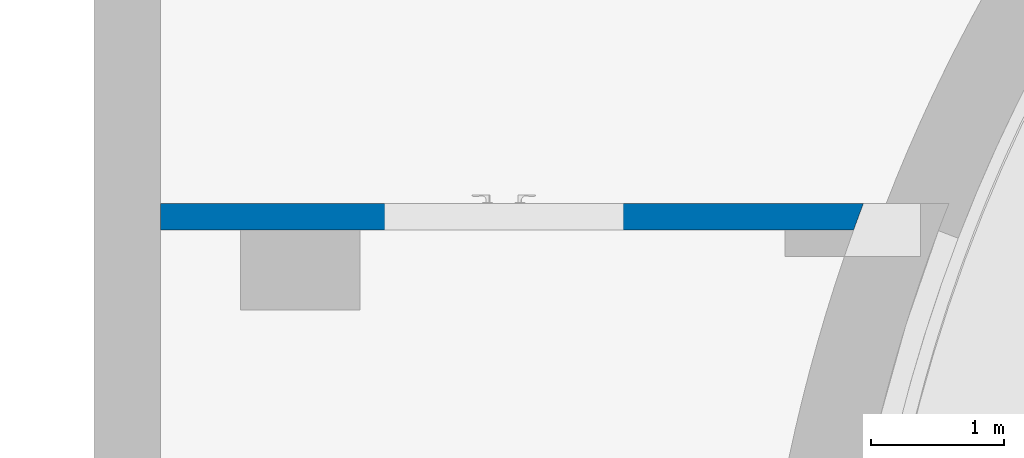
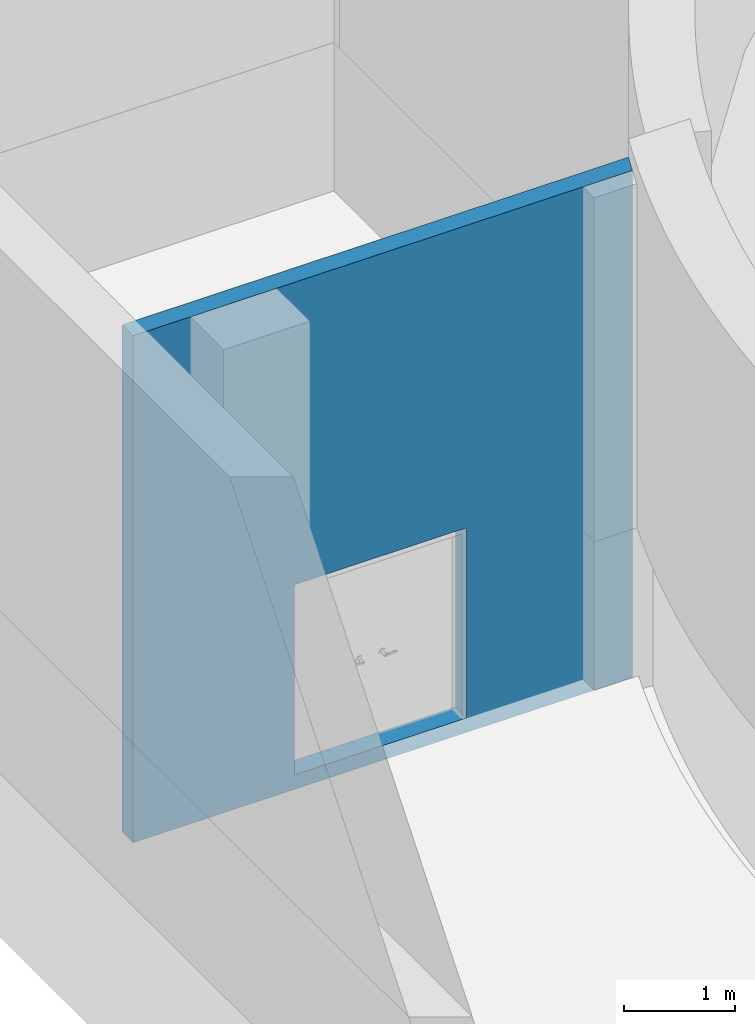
# One storey, part 8 of 30: 1 wall, 2 openings.
"""IFC2X3 building model written with IfcOpenShell, lengths in millimetres."""

from ifc_helpers import new_model, entity, si_unit, converted_unit, derived_unit, direction, frame, frame_2d, origin, place, context, subcontext, project, spatial, polyline, circle_curve, parameter, trimmed, segment, composite_curve, rectangle, outline, extrude, clip, bounded_halfspace, material, layer, layer_set, layer_usage, type_object, element, save


model = new_model("IFC2X3")

# Units and contexts
model_context = context("Model", 3, precision=0.01, world=origin(), true_north=direction((6.123031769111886e-17, 1.0)))
body_context = subcontext(model_context, "Body", "Model", "MODEL_VIEW")
ifc_project = project(units=[si_unit("LENGTHUNIT", "METRE", prefix="MILLI"), si_unit("AREAUNIT", "SQUARE_METRE"), si_unit("VOLUMEUNIT", "CUBIC_METRE"), converted_unit("PLANEANGLEUNIT", "DEGREE", entity("IfcRatioMeasure", 0.017453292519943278), si_unit("PLANEANGLEUNIT", "RADIAN"), dimensions=[0, 0, 0, 0, 0, 0, 0]), si_unit("MASSUNIT", "GRAM", prefix="KILO"), derived_unit("MASSDENSITYUNIT", [(si_unit("MASSUNIT", "GRAM", prefix="KILO"), 1), (si_unit("LENGTHUNIT", "METRE"), -3)]), derived_unit("MOMENTOFINERTIAUNIT", [(si_unit("LENGTHUNIT", "METRE"), 4)]), si_unit("TIMEUNIT", "SECOND"), si_unit("FREQUENCYUNIT", "HERTZ"), si_unit("THERMODYNAMICTEMPERATUREUNIT", "DEGREE_CELSIUS"), derived_unit("THERMALTRANSMITTANCEUNIT", [(si_unit("MASSUNIT", "GRAM", prefix="KILO"), 1), (si_unit("THERMODYNAMICTEMPERATUREUNIT", "KELVIN"), -1), (si_unit("TIMEUNIT", "SECOND"), -3)]), derived_unit("VOLUMETRICFLOWRATEUNIT", [(si_unit("LENGTHUNIT", "METRE"), 3), (si_unit("TIMEUNIT", "SECOND"), -1)]), derived_unit("MASSFLOWRATEUNIT", [(si_unit("MASSUNIT", "GRAM", prefix="KILO"), 1), (si_unit("TIMEUNIT", "SECOND"), -1)]), derived_unit("ROTATIONALFREQUENCYUNIT", [(si_unit("TIMEUNIT", "SECOND"), -1)]), si_unit("ELECTRICCURRENTUNIT", "AMPERE"), si_unit("ELECTRICVOLTAGEUNIT", "VOLT"), si_unit("POWERUNIT", "WATT"), si_unit("FORCEUNIT", "NEWTON", prefix="KILO"), si_unit("ILLUMINANCEUNIT", "LUX"), si_unit("LUMINOUSFLUXUNIT", "LUMEN"), si_unit("LUMINOUSINTENSITYUNIT", "CANDELA"), derived_unit("USERDEFINED", [(si_unit("MASSUNIT", "GRAM", prefix="KILO"), -1), (si_unit("LENGTHUNIT", "METRE"), -2), (si_unit("TIMEUNIT", "SECOND"), 3), (si_unit("LUMINOUSFLUXUNIT", "LUMEN"), 1)]), derived_unit("SOUNDPOWERUNIT", [(si_unit("MASSUNIT", "GRAM", prefix="KILO"), 1), (si_unit("LENGTHUNIT", "METRE"), 2), (si_unit("TIMEUNIT", "SECOND"), -3)]), derived_unit("SOUNDPRESSUREUNIT", [(si_unit("MASSUNIT", "GRAM", prefix="KILO"), 1), (si_unit("LENGTHUNIT", "METRE"), -1), (si_unit("TIMEUNIT", "SECOND"), -2)]), derived_unit("LINEARVELOCITYUNIT", [(si_unit("LENGTHUNIT", "METRE"), 1), (si_unit("TIMEUNIT", "SECOND"), -1)]), si_unit("PRESSUREUNIT", "PASCAL"), derived_unit("USERDEFINED", [(si_unit("LENGTHUNIT", "METRE"), -2), (si_unit("MASSUNIT", "GRAM", prefix="KILO"), 1), (si_unit("TIMEUNIT", "SECOND"), -2)]), derived_unit("LINEARFORCEUNIT", [(si_unit("MASSUNIT", "GRAM", prefix="KILO"), 1), (si_unit("LENGTHUNIT", "METRE"), 1), (si_unit("TIMEUNIT", "SECOND"), -2), (si_unit("LENGTHUNIT", "METRE"), -1)]), derived_unit("PLANARFORCEUNIT", [(si_unit("MASSUNIT", "GRAM", prefix="KILO"), 1), (si_unit("LENGTHUNIT", "METRE"), 1), (si_unit("TIMEUNIT", "SECOND"), -2), (si_unit("LENGTHUNIT", "METRE"), -2)])], contexts=[model_context])

# Site, building, storey
site_placement = place(None, frame((-14167.972527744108, -657.2125860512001, 0.0)))
site = spatial("IfcSite", under=ifc_project, at=site_placement, Name="Default", CompositionType="ELEMENT")
building_placement = place(site_placement, origin())
building = spatial("IfcBuilding", under=site, at=building_placement, Name="Sample Building", CompositionType="ELEMENT")
storey_placement = place(building_placement, frame((0.0, 0.0, -10100.0)))
storey = spatial("IfcBuildingStorey", under=building, at=storey_placement, Name="지하2층", CompositionType="ELEMENT", Elevation=-10100.0)

# Wall, openings
ifc_material = material(Name="KBIMS-콘크리트")
ifc_layer = layer(ifc_material, 200.0)
ifc_layer_set = layer_set([ifc_layer], Name="기본 벽:WA111-철근콘크리트구조 벽 200mm_W1")
ifc_layer_usage = layer_usage(ifc_layer_set, "AXIS2", "NEGATIVE", 100.0)
wall_type = type_object("IfcWallType", Name="기본 벽:WA111-철근콘크리트구조 벽 200mm_W1", PredefinedType="STANDARD", material=ifc_layer_set)
wall_placement = place(storey_placement, frame((18759.019761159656, 27657.21230798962, -1800.0), z_axis=(0.0, 0.0, 1.0), x_axis=(-1.0, 0.0, 0.0)))
wall = element("IfcWallStandardCase", 1, at=wall_placement, inside=storey, type_object=wall_type, material=ifc_layer_usage, Name="기본 벽:WA111-철근콘크리트구조 벽 200mm_W1", ObjectType="기본 벽:WA111-철근콘크리트구조 벽 200mm_W1", context=body_context, shape_type="Clipping", body=[
    clip(extrude(outline(composite_curve([segment(polyline([(5291.047270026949, -100.0), (5291.047270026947, 100.0)]), True, "CONTINUOUS"), segment(polyline([(5291.047270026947, 100.0), (4691.064674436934, 100.0)]), True, "CONTINUOUS"), segment(polyline([(4691.064674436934, 100.0), (3791.0646744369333, 100.0)]), True, "CONTINUOUS"), segment(polyline([(3791.0646744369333, 100.0), (591.0733123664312, 100.0)]), True, "CONTINUOUS"), segment(polyline([(591.0733123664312, 100.0), (73.79562384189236, 100.0)]), True, "CONTINUOUS"), segment(trimmed(circle_curve(frame_2d((-12158.947322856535, 4500.0), x_axis=(-1.0, 0.0)), 12999.99999999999), [parameter(159.27725561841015)], [parameter(160.21682962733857)], True, "PARAMETER"), False, "CONTINUOUS"), segment(polyline([(0.0, -100.0), (5291.047270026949, -100.0)]), True, "CONTINUOUS")], self_intersect=False)), origin(), (0.0, 0.0, 1.0), 5600.0), bounded_halfspace(frame((0.0, -100.0, 5600.0), z_axis=(0.0, 0.0, -1.0), x_axis=(0.0, 1.0, 0.0)), True, frame((0.0, -100.0, 5600.0), z_axis=(0.0, 0.0, -1.0), x_axis=(0.0, 1.0, 0.0)), composite_curve([segment(trimmed(circle_curve(frame_2d((1402080.0, -3706047.144006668), x_axis=(0.0, -1.0)), 3962399.999999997), [parameter(199.78317037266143)], [parameter(200.72274438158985)], True, "PARAMETER"), False, "CONTINUOUS"), segment(polyline([(60960.0, 22492.906147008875), (60960.0, 180159.1456092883)]), True, "CONTINUOUS"), segment(polyline([(60960.0, 180159.14560928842), (60960.0, 1155516.5127683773)]), True, "CONTINUOUS"), segment(polyline([(60960.0, 1155516.512768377), (60960.0, 1429836.5127683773)]), True, "CONTINUOUS"), segment(polyline([(60960.0, 1429836.5127683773), (60960.0, 1612711.2079042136)]), True, "CONTINUOUS"), segment(polyline([(60960.0, 1612711.2079042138), (-4.3223772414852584e-09, 1612711.2079042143)]), True, "CONTINUOUS"), segment(polyline([(-4.3223772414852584e-09, 1612711.2079042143), (-3.669728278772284e-09, 1368876.5071472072)]), True, "CONTINUOUS"), segment(polyline([(-3.669728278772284e-09, 1368876.5071472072), (-3.341591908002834e-09, 1246956.5071472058)]), True, "CONTINUOUS"), segment(polyline([(-3.341591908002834e-09, 1246956.5071472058), (0.0, 0.0)]), True, "CONTINUOUS")], self_intersect=False))),
])
opening_1_placement = place(wall_placement, frame((18759.019761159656, 27657.21230798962, 1800.0), z_axis=(0.0, 0.0, 1.0), x_axis=(-1.0, 0.0, 0.0)))
element("IfcOpeningElement", 2, at=opening_1_placement, cuts=wall, Name="기본 벽:WA111-철근콘크리트구조 벽 200mm_W1", ObjectType="Opening", context=body_context, shape_type="SweptSolid", body=[
    extrude(rectangle(XDim=2099.9999999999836, YDim=1800.0, at=frame_2d((-1.0231815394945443e-12, -1.0800249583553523e-12), x_axis=(1.0, 0.0))), frame((16052.250703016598, 29081.21230798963, -590.0), z_axis=(0.0, -1.0, 0.0), x_axis=(0.0, 0.0, 1.0)), (0.0, 0.0, 1.0), 3048.0),
])
opening_2_placement = place(wall_placement, frame((3606.7690581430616, 100.0, 160.0)))
element("IfcOpeningElement", 3, at=opening_2_placement, cuts=wall, Name="DR121-쌍여닫이문(철재, 방화문):DR121-쌍여닫이문(철재, 방화문) 1800x2100mm:1", ObjectType="Opening", context=body_context, shape_type="SweptSolid", body=[
    extrude(rectangle(XDim=2099.999999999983, YDim=1799.9999999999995, at=frame_2d((1049.999999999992, 899.9999999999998), x_axis=(1.0, 0.0))), frame((0.0, 0.0, 0.0), z_axis=(0.0, -1.0, 0.0), x_axis=(0.0, 0.0, 1.0)), (0.0, 0.0, 1.0), 200.0),
])

save(model, "model.ifc")
